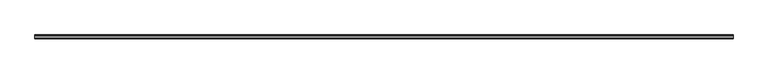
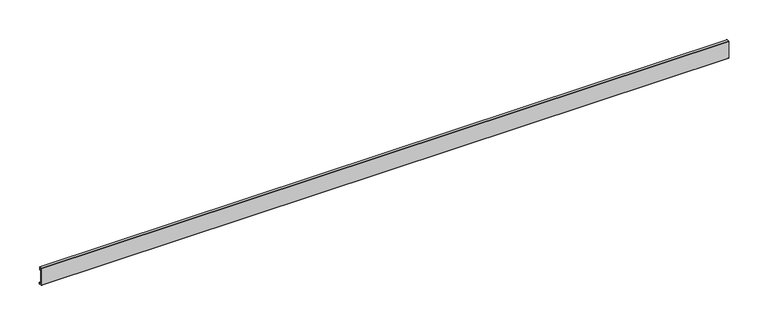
"""IFC4 building model written with IfcOpenShell, lengths in millimetres: proxy geometry, Weiku - Montante - Capa de folha 02.3.02.406 : Weiku - Montante - Capa de folha 02.3.02.406."""

from ifc_helpers import new_model, si_unit, point, frame, frame_2d, origin, place, context, project, spatial, polyline, circle_curve, trimmed, segment, composite_curve, outline, extrude, source, transform, mapped, element, save


def generic_models_712f3f84(model_context):
    return source(origin(), model_context, "Body", "SweptSolid", [
        extrude(outline(composite_curve([segment(polyline([(4.6421508, 2.2715508), (5.3603515, 1.056104)]), True, "CONTINUOUS"), segment(trimmed(circle_curve(frame_2d((4.7576991, 0.7)), 0.7), [point((5.3603515, 1.056104))], [point((4.7576991, 0.0))], False, "CARTESIAN"), True, "CONTINUOUS"), segment(polyline([(4.7576991, 0.0), (0.5, 0.0)]), True, "CONTINUOUS"), segment(trimmed(circle_curve(frame_2d((0.5, 0.5)), 0.5), [point((0.5, 0.0))], [point((0.0, 0.5))], False, "CARTESIAN"), True, "CONTINUOUS"), segment(polyline([(0.0, 0.5), (0.0, 26.2)]), True, "CONTINUOUS"), segment(trimmed(circle_curve(frame_2d((0.5, 26.2)), 0.5), [point((0.0, 26.2))], [point((0.5, 26.7))], False, "CARTESIAN"), True, "CONTINUOUS"), segment(polyline([(0.5, 26.7), (3.78, 26.7)]), True, "CONTINUOUS"), segment(trimmed(circle_curve(frame_2d((3.78, 26.2)), 0.5), [point((3.78, 26.7))], [point((4.28, 26.2))], False, "CARTESIAN"), True, "CONTINUOUS"), segment(polyline([(4.28, 26.2), (4.28, 22.3396), (3.3063, 22.3396), (3.3063, 25.684), (1.6933, 25.684), (1.6933, 1.016), (3.3866, 1.016), (4.6421508, 2.2715508)]), True, "CONTINUOUS")], self_intersect=False)), frame((-506.925, 0.0, 0.0), z_axis=(1.0, 0.0, 0.0), x_axis=(0.0, 1.0, 0.0)), (0.0, 0.0, 1.0), 1013.85),
    ])


if __name__ == "__main__":
    model = new_model("IFC4")
    model_context = context("Model", 3, world=origin())
    ifc_project = project(units=[si_unit("LENGTHUNIT", "METRE", prefix="MILLI")], contexts=[model_context])
    site = spatial("IfcSite", under=ifc_project)
    building = spatial("IfcBuilding", under=site)
    placement = place(None, origin())
    generic_models_shape = generic_models_712f3f84(model_context)
    element("IfcBuildingElementProxy", 1, Name="Weiku - Montante - Capa de folha 02.3.02.406 : Weiku - Montante - Capa de folha 02.3.02.406", ObjectType="Weiku - Montante - Capa de folha 02.3.02.406 : Weiku - Montante - Capa de folha 02.3.02.406", at=placement, inside=building, context=model_context, shape_type="MappedRepresentation", body=[
        mapped(generic_models_shape, transform((0.0, 0.0, 0.0), x_axis=(1.0, 0.0, 0.0), y_axis=(0.0, 1.0, 0.0), z_axis=(0.0, 0.0, 1.0))),
    ])
    save(model, "model.ifc")
